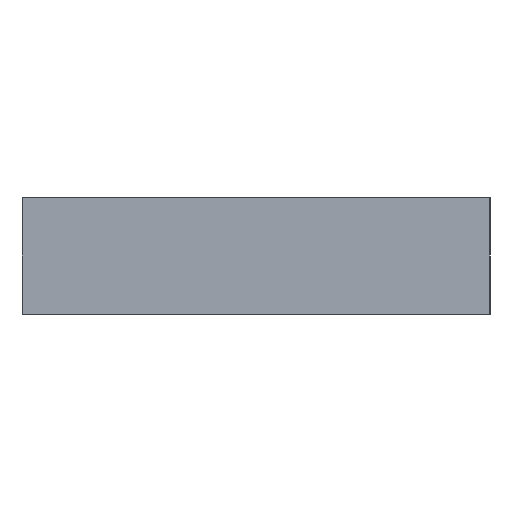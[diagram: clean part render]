
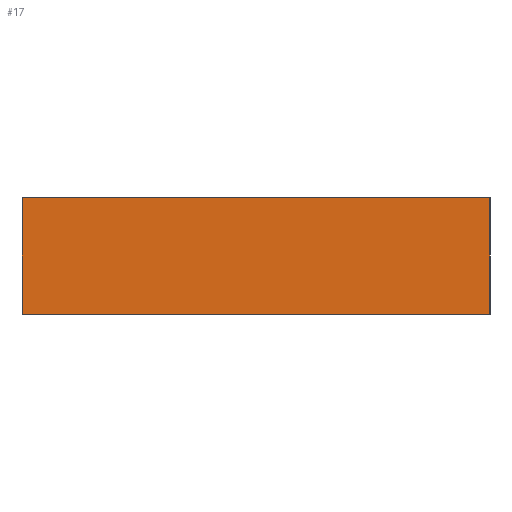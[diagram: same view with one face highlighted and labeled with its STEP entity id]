
A CAD part, left-side view. The second image highlights one B-rep face of the part: STEP entity #17.
In plain terms, the highlighted planar face has unit normal (-1, 0, 0).
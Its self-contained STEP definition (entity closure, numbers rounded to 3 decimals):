
#17 = ADVANCED_FACE('',(#18),#32,.F.);
#18 = FACE_BOUND('',#19,.F.);
#19 = EDGE_LOOP('',(#20,#55,#83,#111));
#20 = ORIENTED_EDGE('',*,*,#21,.F.);
#21 = EDGE_CURVE('',#22,#24,#26,.T.);
#22 = VERTEX_POINT('',#23);
#23 = CARTESIAN_POINT('',(24.,23.,-9.95));
#24 = VERTEX_POINT('',#25);
#25 = CARTESIAN_POINT('',(24.,23.,-9.75));
#26 = SURFACE_CURVE('',#27,(#31,#43),.PCURVE_S1.);
#27 = LINE('',#28,#29);
#28 = CARTESIAN_POINT('',(24.,23.,-9.95));
#29 = VECTOR('',#30,1.);
#30 = DIRECTION('',(0.,0.,1.));
#31 = PCURVE('',#32,#37);
#32 = PLANE('',#33);
#33 = AXIS2_PLACEMENT_3D('',#34,#35,#36);
#34 = CARTESIAN_POINT('',(24.,23.,-9.95));
#35 = DIRECTION('',(1.,0.,-0.));
#36 = DIRECTION('',(0.,0.,1.));
#37 = DEFINITIONAL_REPRESENTATION('',(#38),#42);
#38 = LINE('',#39,#40);
#39 = CARTESIAN_POINT('',(0.,0.));
#40 = VECTOR('',#41,1.);
#41 = DIRECTION('',(1.,0.));
#42 = ( GEOMETRIC_REPRESENTATION_CONTEXT(2) 
PARAMETRIC_REPRESENTATION_CONTEXT() REPRESENTATION_CONTEXT('2D SPACE',''
  ) );
#43 = PCURVE('',#44,#49);
#44 = PLANE('',#45);
#45 = AXIS2_PLACEMENT_3D('',#46,#47,#48);
#46 = CARTESIAN_POINT('',(24.,23.,-9.95));
#47 = DIRECTION('',(-0.,1.,0.));
#48 = DIRECTION('',(0.,0.,1.));
#49 = DEFINITIONAL_REPRESENTATION('',(#50),#54);
#50 = LINE('',#51,#52);
#51 = CARTESIAN_POINT('',(0.,0.));
#52 = VECTOR('',#53,1.);
#53 = DIRECTION('',(1.,0.));
#54 = ( GEOMETRIC_REPRESENTATION_CONTEXT(2) 
PARAMETRIC_REPRESENTATION_CONTEXT() REPRESENTATION_CONTEXT('2D SPACE',''
  ) );
#55 = ORIENTED_EDGE('',*,*,#56,.T.);
#56 = EDGE_CURVE('',#22,#57,#59,.T.);
#57 = VERTEX_POINT('',#58);
#58 = CARTESIAN_POINT('',(24.,23.8,-9.95));
#59 = SURFACE_CURVE('',#60,(#64,#71),.PCURVE_S1.);
#60 = LINE('',#61,#62);
#61 = CARTESIAN_POINT('',(24.,23.,-9.95));
#62 = VECTOR('',#63,1.);
#63 = DIRECTION('',(-0.,1.,0.));
#64 = PCURVE('',#32,#65);
#65 = DEFINITIONAL_REPRESENTATION('',(#66),#70);
#66 = LINE('',#67,#68);
#67 = CARTESIAN_POINT('',(0.,0.));
#68 = VECTOR('',#69,1.);
#69 = DIRECTION('',(0.,-1.));
#70 = ( GEOMETRIC_REPRESENTATION_CONTEXT(2) 
PARAMETRIC_REPRESENTATION_CONTEXT() REPRESENTATION_CONTEXT('2D SPACE',''
  ) );
#71 = PCURVE('',#72,#77);
#72 = PLANE('',#73);
#73 = AXIS2_PLACEMENT_3D('',#74,#75,#76);
#74 = CARTESIAN_POINT('',(24.,23.,-9.95));
#75 = DIRECTION('',(0.,0.,1.));
#76 = DIRECTION('',(1.,0.,-0.));
#77 = DEFINITIONAL_REPRESENTATION('',(#78),#82);
#78 = LINE('',#79,#80);
#79 = CARTESIAN_POINT('',(0.,0.));
#80 = VECTOR('',#81,1.);
#81 = DIRECTION('',(0.,1.));
#82 = ( GEOMETRIC_REPRESENTATION_CONTEXT(2) 
PARAMETRIC_REPRESENTATION_CONTEXT() REPRESENTATION_CONTEXT('2D SPACE',''
  ) );
#83 = ORIENTED_EDGE('',*,*,#84,.T.);
#84 = EDGE_CURVE('',#57,#85,#87,.T.);
#85 = VERTEX_POINT('',#86);
#86 = CARTESIAN_POINT('',(24.,23.8,-9.75));
#87 = SURFACE_CURVE('',#88,(#92,#99),.PCURVE_S1.);
#88 = LINE('',#89,#90);
#89 = CARTESIAN_POINT('',(24.,23.8,-9.95));
#90 = VECTOR('',#91,1.);
#91 = DIRECTION('',(0.,0.,1.));
#92 = PCURVE('',#32,#93);
#93 = DEFINITIONAL_REPRESENTATION('',(#94),#98);
#94 = LINE('',#95,#96);
#95 = CARTESIAN_POINT('',(0.,-0.8));
#96 = VECTOR('',#97,1.);
#97 = DIRECTION('',(1.,0.));
#98 = ( GEOMETRIC_REPRESENTATION_CONTEXT(2) 
PARAMETRIC_REPRESENTATION_CONTEXT() REPRESENTATION_CONTEXT('2D SPACE',''
  ) );
#99 = PCURVE('',#100,#105);
#100 = PLANE('',#101);
#101 = AXIS2_PLACEMENT_3D('',#102,#103,#104);
#102 = CARTESIAN_POINT('',(24.,23.8,-9.95));
#103 = DIRECTION('',(-0.,1.,0.));
#104 = DIRECTION('',(0.,0.,1.));
#105 = DEFINITIONAL_REPRESENTATION('',(#106),#110);
#106 = LINE('',#107,#108);
#107 = CARTESIAN_POINT('',(0.,0.));
#108 = VECTOR('',#109,1.);
#109 = DIRECTION('',(1.,0.));
#110 = ( GEOMETRIC_REPRESENTATION_CONTEXT(2) 
PARAMETRIC_REPRESENTATION_CONTEXT() REPRESENTATION_CONTEXT('2D SPACE',''
  ) );
#111 = ORIENTED_EDGE('',*,*,#112,.F.);
#112 = EDGE_CURVE('',#24,#85,#113,.T.);
#113 = SURFACE_CURVE('',#114,(#118,#125),.PCURVE_S1.);
#114 = LINE('',#115,#116);
#115 = CARTESIAN_POINT('',(24.,23.,-9.75));
#116 = VECTOR('',#117,1.);
#117 = DIRECTION('',(-0.,1.,0.));
#118 = PCURVE('',#32,#119);
#119 = DEFINITIONAL_REPRESENTATION('',(#120),#124);
#120 = LINE('',#121,#122);
#121 = CARTESIAN_POINT('',(0.2,0.));
#122 = VECTOR('',#123,1.);
#123 = DIRECTION('',(0.,-1.));
#124 = ( GEOMETRIC_REPRESENTATION_CONTEXT(2) 
PARAMETRIC_REPRESENTATION_CONTEXT() REPRESENTATION_CONTEXT('2D SPACE',''
  ) );
#125 = PCURVE('',#126,#131);
#126 = PLANE('',#127);
#127 = AXIS2_PLACEMENT_3D('',#128,#129,#130);
#128 = CARTESIAN_POINT('',(24.,23.,-9.75));
#129 = DIRECTION('',(0.,0.,1.));
#130 = DIRECTION('',(1.,0.,-0.));
#131 = DEFINITIONAL_REPRESENTATION('',(#132),#136);
#132 = LINE('',#133,#134);
#133 = CARTESIAN_POINT('',(0.,0.));
#134 = VECTOR('',#135,1.);
#135 = DIRECTION('',(0.,1.));
#136 = ( GEOMETRIC_REPRESENTATION_CONTEXT(2) 
PARAMETRIC_REPRESENTATION_CONTEXT() REPRESENTATION_CONTEXT('2D SPACE',''
  ) );
